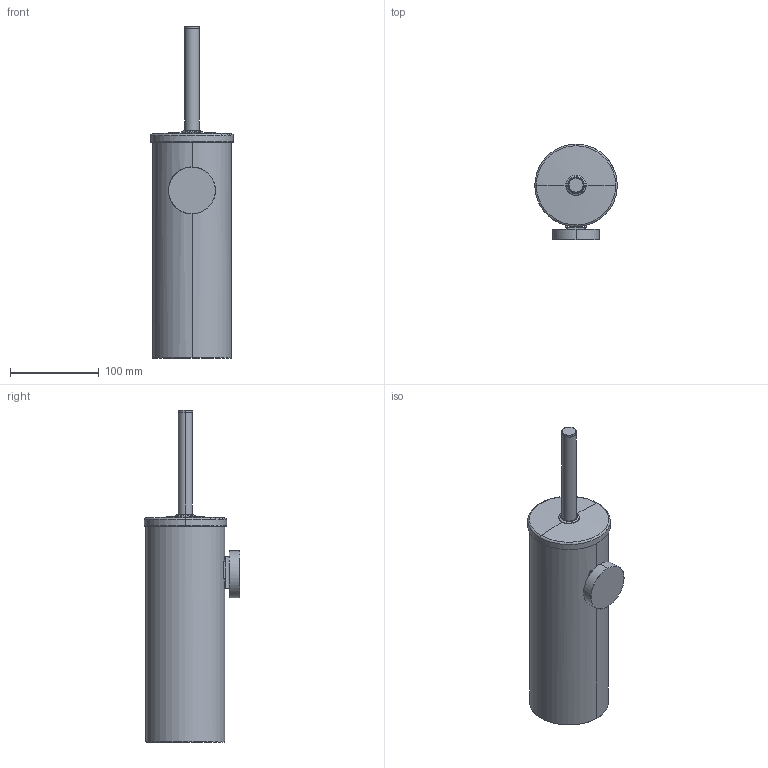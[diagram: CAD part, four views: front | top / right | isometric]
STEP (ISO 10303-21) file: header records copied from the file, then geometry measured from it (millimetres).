
FILE_DESCRIPTION(('THIS FILE CONTAINS SOME STEP INSTANCES'),'1');
FILE_NAME('HAR 053-light.stp','2015-11-18T10:36:24',('UNDEFINED'),('UNDEFINED'),'T-FLEX CAD STEP converter','T-FLEX CAD','');
FILE_SCHEMA(('CONFIG_CONTROL_DESIGN'));
Length unit declared in the file: metre
Products named in the file (1): har_053
Bounding box: 93 x 107.9 x 374.43 mm (x, y, z)
Volume: 1635623.9 mm3; surface area: 98219.4 mm2
Topology: 1 solids, 2 shells, 90 faces, 211 edges, 129 vertices
Faces by surface type: cone 28, cylinder 28, plane 24, bspline 4, torus 4, sphere 2
Entity records: 2931 total; most frequent: CARTESIAN_POINT 1127, ORIENTED_EDGE 422, DIRECTION 315, EDGE_CURVE 211, VERTEX_POINT 129, AXIS2_PLACEMENT_3D 117, EDGE_LOOP 98, ADVANCED_FACE 90
